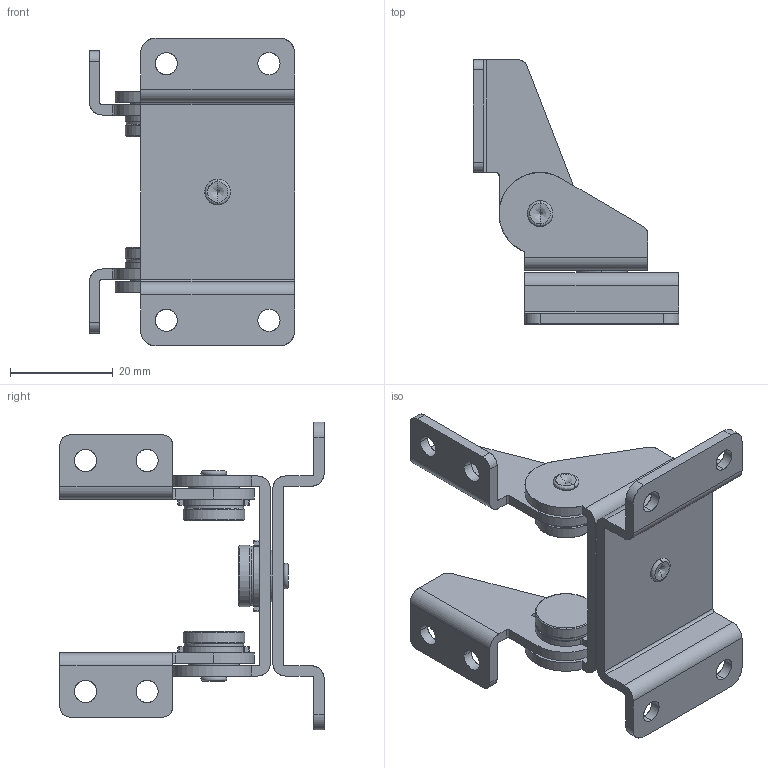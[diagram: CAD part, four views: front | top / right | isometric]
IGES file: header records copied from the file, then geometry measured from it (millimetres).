
Start section: SolidWorks IGES file using analytic representation for surfaces
Global section: file name: C:\Documents and Settings\IANO\My Documents\Wix and Auto CAD Work\CAD Models\Parametric Models\Wix Models\AC\S\S4030_v2\S4030_v2_IGES\Default.igs; native system: SolidWorks 2009; preprocessor: SolidWorks 2009; author: IANO; date: 140312.165813; units: millimetre
Bounding box: 40 x 51.5 x 60 mm (x, y, z)
Surface area: 13665.4 mm2 (no closed solid volume)
Topology: 0 solids, 0 shells, 262 faces, 3528 edges, 3522 vertices
Faces by surface type: revolution 153, bspline 109
